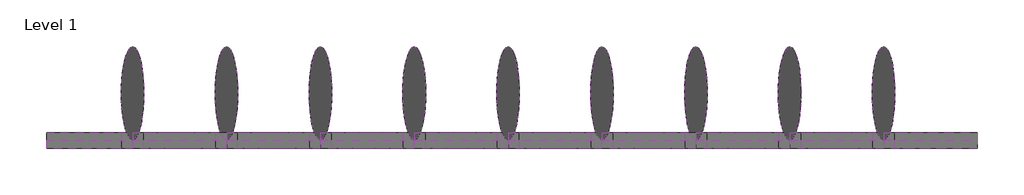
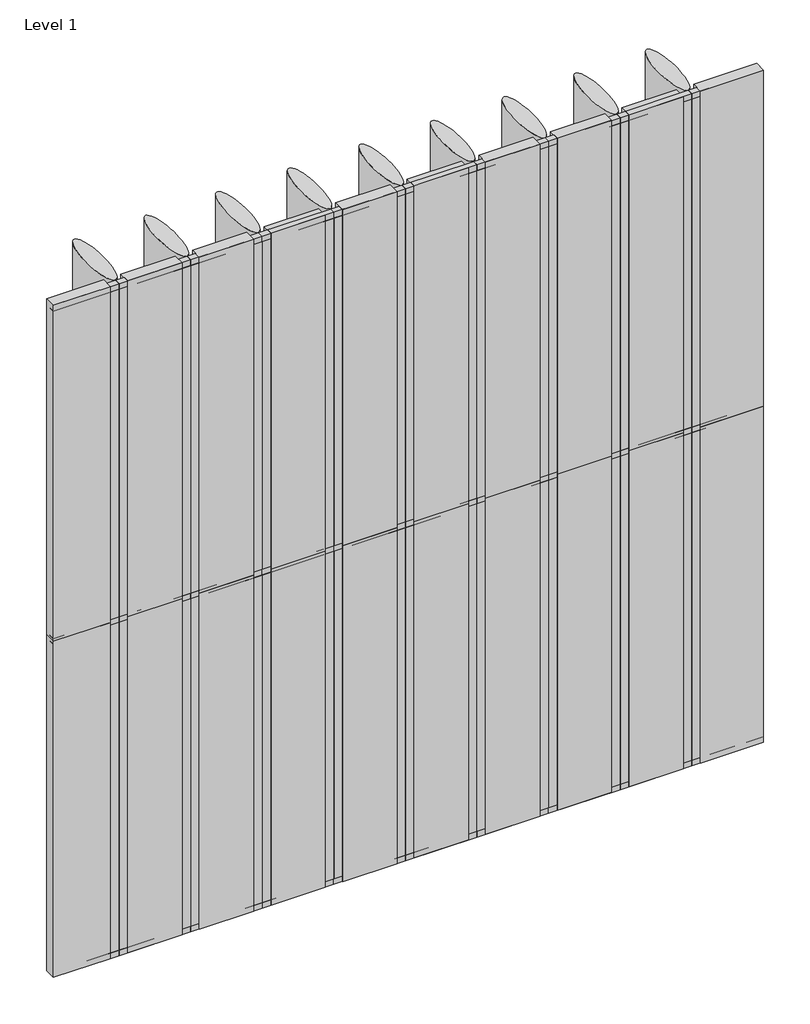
# One storey: 48 members, 40 plates.
"""IFC4 building model written with IfcOpenShell, lengths in millimetres."""

from ifc_helpers import new_model, si_unit, origin, place, context, project, spatial, transform, mapped, element, save
from components import rectangular_mullion_382eacee, rectangular_mullion_d8201ae5, rectangular_mullion_6e5ba28d, rectangular_mullion_1c998518, rectangular_mullion_4d0e3d15, rectangular_mullion_543a06af, rectangular_mullion_fcffcf6d, empty_system_panel_empty_f8120e01, empty_system_panel_empty_408a184a, empty_system_panel_empty_5782cc23, empty_system_panel_empty_b3d00ce9, empty_system_panel_empty_c1b1d027

model = new_model("IFC4")

# Units and contexts
model_context = context("Model", 3, world=origin())
ifc_project = project(units=[si_unit("LENGTHUNIT", "METRE", prefix="MILLI")], contexts=[model_context])

# Site, building, storey
site = spatial("IfcSite", under=ifc_project)
building = spatial("IfcBuilding", under=site)
storey = spatial("IfcBuildingStorey", under=building, Name="Level 1", Elevation=0.0)

# Members
placement = place(None, origin())
rectangular_mullion_shape = rectangular_mullion_382eacee(model_context)
element("IfcMember", 1, ObjectType="Rectangular Mullion : RSen_21_CWM_blade - wing 600 - 0° perforated_gen_duco projects", at=placement, inside=storey, context=model_context, shape_type="MappedRepresentation", body=[
    mapped(rectangular_mullion_shape, transform((5395.0, 3000.0, 0.0), x_axis=(-1.0, 0.0, 0.0), y_axis=(0.0, 1.0, 0.0), z_axis=(0.0, 0.0, -1.0))),
])
element("IfcMember", 2, ObjectType="Rectangular Mullion : RSen_21_CWM_blade - wing 600 - 0° perforated_gen_duco projects", at=placement, inside=storey, context=model_context, shape_type="MappedRepresentation", body=[
    mapped(rectangular_mullion_shape, transform((4790.0, 3000.0, 0.0), x_axis=(-1.0, 0.0, 0.0), y_axis=(0.0, 1.0, 0.0), z_axis=(0.0, 0.0, -1.0))),
])
element("IfcMember", 3, ObjectType="Rectangular Mullion : RSen_21_CWM_blade - wing 600 - 0° perforated_gen_duco projects", at=placement, inside=storey, context=model_context, shape_type="MappedRepresentation", body=[
    mapped(rectangular_mullion_shape, transform((4185.0, 3000.0, 0.0), x_axis=(-1.0, 0.0, 0.0), y_axis=(0.0, 1.0, 0.0), z_axis=(0.0, 0.0, -1.0))),
])
element("IfcMember", 4, ObjectType="Rectangular Mullion : RSen_21_CWM_blade - wing 600 - 0° perforated_gen_duco projects", at=placement, inside=storey, context=model_context, shape_type="MappedRepresentation", body=[
    mapped(rectangular_mullion_shape, transform((3580.0, 3000.0, 0.0), x_axis=(-1.0, 0.0, 0.0), y_axis=(0.0, 1.0, 0.0), z_axis=(0.0, 0.0, -1.0))),
])
element("IfcMember", 5, ObjectType="Rectangular Mullion : RSen_21_CWM_blade - wing 600 - 0° perforated_gen_duco projects", at=placement, inside=storey, context=model_context, shape_type="MappedRepresentation", body=[
    mapped(rectangular_mullion_shape, transform((2975.0, 3000.0, 0.0), x_axis=(-1.0, 0.0, 0.0), y_axis=(0.0, 1.0, 0.0), z_axis=(0.0, 0.0, -1.0))),
])
element("IfcMember", 6, ObjectType="Rectangular Mullion : RSen_21_CWM_blade - wing 600 - 0° perforated_gen_duco projects", at=placement, inside=storey, context=model_context, shape_type="MappedRepresentation", body=[
    mapped(rectangular_mullion_shape, transform((2370.0, 3000.0, 0.0), x_axis=(-1.0, 0.0, 0.0), y_axis=(0.0, 1.0, 0.0), z_axis=(0.0, 0.0, -1.0))),
])
element("IfcMember", 7, ObjectType="Rectangular Mullion : RSen_21_CWM_blade - wing 600 - 0° perforated_gen_duco projects", at=placement, inside=storey, context=model_context, shape_type="MappedRepresentation", body=[
    mapped(rectangular_mullion_shape, transform((1765.0, 3000.0, 0.0), x_axis=(-1.0, 0.0, 0.0), y_axis=(0.0, 1.0, 0.0), z_axis=(0.0, 0.0, -1.0))),
])
element("IfcMember", 8, ObjectType="Rectangular Mullion : RSen_21_CWM_blade - wing 600 - 0° perforated_gen_duco projects", at=placement, inside=storey, context=model_context, shape_type="MappedRepresentation", body=[
    mapped(rectangular_mullion_shape, transform((1160.0, 3000.0, 0.0), x_axis=(-1.0, 0.0, 0.0), y_axis=(0.0, 1.0, 0.0), z_axis=(0.0, 0.0, -1.0))),
])
element("IfcMember", 9, ObjectType="Rectangular Mullion : RSen_21_CWM_blade - wing 600 - 0° perforated_gen_duco projects", at=placement, inside=storey, context=model_context, shape_type="MappedRepresentation", body=[
    mapped(rectangular_mullion_shape, transform((555.0, 3000.0, 0.0), x_axis=(-1.0, 0.0, 0.0), y_axis=(0.0, 1.0, 0.0), z_axis=(0.0, 0.0, -1.0))),
])
element("IfcMember", 10, ObjectType="Rectangular Mullion : RSen_21_CWM_blade - wing 600 - 0° perforated_gen_duco projects", at=placement, inside=storey, context=model_context, shape_type="MappedRepresentation", body=[
    mapped(rectangular_mullion_shape, transform((5395.0, 3000.0, 3000.0), x_axis=(-1.0, 0.0, 0.0), y_axis=(0.0, 1.0, 0.0), z_axis=(0.0, 0.0, -1.0))),
])
element("IfcMember", 11, ObjectType="Rectangular Mullion : RSen_21_CWM_blade - wing 600 - 0° perforated_gen_duco projects", at=placement, inside=storey, context=model_context, shape_type="MappedRepresentation", body=[
    mapped(rectangular_mullion_shape, transform((4790.0, 3000.0, 3000.0), x_axis=(-1.0, 0.0, 0.0), y_axis=(0.0, 1.0, 0.0), z_axis=(0.0, 0.0, -1.0))),
])
element("IfcMember", 12, ObjectType="Rectangular Mullion : RSen_21_CWM_blade - wing 600 - 0° perforated_gen_duco projects", at=placement, inside=storey, context=model_context, shape_type="MappedRepresentation", body=[
    mapped(rectangular_mullion_shape, transform((4185.0, 3000.0, 3000.0), x_axis=(-1.0, 0.0, 0.0), y_axis=(0.0, 1.0, 0.0), z_axis=(0.0, 0.0, -1.0))),
])
element("IfcMember", 13, ObjectType="Rectangular Mullion : RSen_21_CWM_blade - wing 600 - 0° perforated_gen_duco projects", at=placement, inside=storey, context=model_context, shape_type="MappedRepresentation", body=[
    mapped(rectangular_mullion_shape, transform((3580.0, 3000.0, 3000.0), x_axis=(-1.0, 0.0, 0.0), y_axis=(0.0, 1.0, 0.0), z_axis=(0.0, 0.0, -1.0))),
])
element("IfcMember", 14, ObjectType="Rectangular Mullion : RSen_21_CWM_blade - wing 600 - 0° perforated_gen_duco projects", at=placement, inside=storey, context=model_context, shape_type="MappedRepresentation", body=[
    mapped(rectangular_mullion_shape, transform((2975.0, 3000.0, 3000.0), x_axis=(-1.0, 0.0, 0.0), y_axis=(0.0, 1.0, 0.0), z_axis=(0.0, 0.0, -1.0))),
])
element("IfcMember", 15, ObjectType="Rectangular Mullion : RSen_21_CWM_blade - wing 600 - 0° perforated_gen_duco projects", at=placement, inside=storey, context=model_context, shape_type="MappedRepresentation", body=[
    mapped(rectangular_mullion_shape, transform((2370.0, 3000.0, 3000.0), x_axis=(-1.0, 0.0, 0.0), y_axis=(0.0, 1.0, 0.0), z_axis=(0.0, 0.0, -1.0))),
])
element("IfcMember", 16, ObjectType="Rectangular Mullion : RSen_21_CWM_blade - wing 600 - 0° perforated_gen_duco projects", at=placement, inside=storey, context=model_context, shape_type="MappedRepresentation", body=[
    mapped(rectangular_mullion_shape, transform((1765.0, 3000.0, 3000.0), x_axis=(-1.0, 0.0, 0.0), y_axis=(0.0, 1.0, 0.0), z_axis=(0.0, 0.0, -1.0))),
])
element("IfcMember", 17, ObjectType="Rectangular Mullion : RSen_21_CWM_blade - wing 600 - 0° perforated_gen_duco projects", at=placement, inside=storey, context=model_context, shape_type="MappedRepresentation", body=[
    mapped(rectangular_mullion_shape, transform((1160.0, 3000.0, 3000.0), x_axis=(-1.0, 0.0, 0.0), y_axis=(0.0, 1.0, 0.0), z_axis=(0.0, 0.0, -1.0))),
])
element("IfcMember", 18, ObjectType="Rectangular Mullion : RSen_21_CWM_blade - wing 600 - 0° perforated_gen_duco projects", at=placement, inside=storey, context=model_context, shape_type="MappedRepresentation", body=[
    mapped(rectangular_mullion_shape, transform((555.0, 3000.0, 3000.0), x_axis=(-1.0, 0.0, 0.0), y_axis=(0.0, 1.0, 0.0), z_axis=(0.0, 0.0, -1.0))),
])
rectangular_mullion_2_shape = rectangular_mullion_d8201ae5(model_context)
element("IfcMember", 19, ObjectType="Rectangular Mullion : RSen_21_CWM_support profile 50x50 - left_gen_duco projects", at=placement, inside=storey, context=model_context, shape_type="MappedRepresentation", body=[
    mapped(rectangular_mullion_2_shape, transform((0.0, 3000.0, 6000.0), x_axis=(0.0, 0.0, 1.0), y_axis=(0.0, 1.0, 0.0), z_axis=(-1.0, 0.0, 0.0))),
])
rectangular_mullion_3_shape = rectangular_mullion_6e5ba28d(model_context)
element("IfcMember", 20, ObjectType="Rectangular Mullion : RSen_21_CWM_support profile 50x50 - right_gen_duco projects", at=placement, inside=storey, context=model_context, shape_type="MappedRepresentation", body=[
    mapped(rectangular_mullion_3_shape, transform((6000.0, 3000.0, 0.0), x_axis=(0.0, 0.0, -1.0), y_axis=(0.0, 1.0, 0.0), z_axis=(1.0, 0.0, 0.0))),
])
rectangular_mullion_4_shape = rectangular_mullion_1c998518(model_context)
element("IfcMember", 21, ObjectType="Rectangular Mullion : RSen_21_CWM_support profile 50x50 - left_gen_duco projects", at=placement, inside=storey, context=model_context, shape_type="MappedRepresentation", body=[
    mapped(rectangular_mullion_4_shape, transform((5395.0, 3000.0, 6000.0), x_axis=(0.0, 0.0, 1.0), y_axis=(0.0, 1.0, 0.0), z_axis=(-1.0, 0.0, 0.0))),
])
element("IfcMember", 22, ObjectType="Rectangular Mullion : RSen_21_CWM_support profile 50x50 - left_gen_duco projects", at=placement, inside=storey, context=model_context, shape_type="MappedRepresentation", body=[
    mapped(rectangular_mullion_4_shape, transform((4790.0, 3000.0, 6000.0), x_axis=(0.0, 0.0, 1.0), y_axis=(0.0, 1.0, 0.0), z_axis=(-1.0, 0.0, 0.0))),
])
element("IfcMember", 23, ObjectType="Rectangular Mullion : RSen_21_CWM_support profile 50x50 - left_gen_duco projects", at=placement, inside=storey, context=model_context, shape_type="MappedRepresentation", body=[
    mapped(rectangular_mullion_4_shape, transform((4185.0, 3000.0, 6000.0), x_axis=(0.0, 0.0, 1.0), y_axis=(0.0, 1.0, 0.0), z_axis=(-1.0, 0.0, 0.0))),
])
element("IfcMember", 24, ObjectType="Rectangular Mullion : RSen_21_CWM_support profile 50x50 - left_gen_duco projects", at=placement, inside=storey, context=model_context, shape_type="MappedRepresentation", body=[
    mapped(rectangular_mullion_4_shape, transform((3580.0, 3000.0, 6000.0), x_axis=(0.0, 0.0, 1.0), y_axis=(0.0, 1.0, 0.0), z_axis=(-1.0, 0.0, 0.0))),
])
element("IfcMember", 25, ObjectType="Rectangular Mullion : RSen_21_CWM_support profile 50x50 - left_gen_duco projects", at=placement, inside=storey, context=model_context, shape_type="MappedRepresentation", body=[
    mapped(rectangular_mullion_4_shape, transform((2975.0, 3000.0, 6000.0), x_axis=(0.0, 0.0, 1.0), y_axis=(0.0, 1.0, 0.0), z_axis=(-1.0, 0.0, 0.0))),
])
element("IfcMember", 26, ObjectType="Rectangular Mullion : RSen_21_CWM_support profile 50x50 - left_gen_duco projects", at=placement, inside=storey, context=model_context, shape_type="MappedRepresentation", body=[
    mapped(rectangular_mullion_4_shape, transform((2370.0, 3000.0, 6000.0), x_axis=(0.0, 0.0, 1.0), y_axis=(0.0, 1.0, 0.0), z_axis=(-1.0, 0.0, 0.0))),
])
element("IfcMember", 27, ObjectType="Rectangular Mullion : RSen_21_CWM_support profile 50x50 - left_gen_duco projects", at=placement, inside=storey, context=model_context, shape_type="MappedRepresentation", body=[
    mapped(rectangular_mullion_4_shape, transform((1765.0, 3000.0, 6000.0), x_axis=(0.0, 0.0, 1.0), y_axis=(0.0, 1.0, 0.0), z_axis=(-1.0, 0.0, 0.0))),
])
element("IfcMember", 28, ObjectType="Rectangular Mullion : RSen_21_CWM_support profile 50x50 - left_gen_duco projects", at=placement, inside=storey, context=model_context, shape_type="MappedRepresentation", body=[
    mapped(rectangular_mullion_4_shape, transform((1160.0, 3000.0, 6000.0), x_axis=(0.0, 0.0, 1.0), y_axis=(0.0, 1.0, 0.0), z_axis=(-1.0, 0.0, 0.0))),
])
element("IfcMember", 29, ObjectType="Rectangular Mullion : RSen_21_CWM_support profile 50x50 - left_gen_duco projects", at=placement, inside=storey, context=model_context, shape_type="MappedRepresentation", body=[
    mapped(rectangular_mullion_4_shape, transform((555.0, 3000.0, 6000.0), x_axis=(0.0, 0.0, 1.0), y_axis=(0.0, 1.0, 0.0), z_axis=(-1.0, 0.0, 0.0))),
])
element("IfcMember", 30, ObjectType="Rectangular Mullion : RSen_21_CWM_support profile 50x50 - right_gen_duco projects", at=placement, inside=storey, context=model_context, shape_type="MappedRepresentation", body=[
    mapped(rectangular_mullion_3_shape, transform((5395.0, 3000.0, 0.0), x_axis=(0.0, 0.0, -1.0), y_axis=(0.0, 1.0, 0.0), z_axis=(1.0, 0.0, 0.0))),
])
element("IfcMember", 31, ObjectType="Rectangular Mullion : RSen_21_CWM_support profile 50x50 - right_gen_duco projects", at=placement, inside=storey, context=model_context, shape_type="MappedRepresentation", body=[
    mapped(rectangular_mullion_3_shape, transform((4790.0, 3000.0, 0.0), x_axis=(0.0, 0.0, -1.0), y_axis=(0.0, 1.0, 0.0), z_axis=(1.0, 0.0, 0.0))),
])
element("IfcMember", 32, ObjectType="Rectangular Mullion : RSen_21_CWM_support profile 50x50 - right_gen_duco projects", at=placement, inside=storey, context=model_context, shape_type="MappedRepresentation", body=[
    mapped(rectangular_mullion_3_shape, transform((4185.0, 3000.0, 0.0), x_axis=(0.0, 0.0, -1.0), y_axis=(0.0, 1.0, 0.0), z_axis=(1.0, 0.0, 0.0))),
])
element("IfcMember", 33, ObjectType="Rectangular Mullion : RSen_21_CWM_support profile 50x50 - right_gen_duco projects", at=placement, inside=storey, context=model_context, shape_type="MappedRepresentation", body=[
    mapped(rectangular_mullion_3_shape, transform((3580.0, 3000.0, 0.0), x_axis=(0.0, 0.0, -1.0), y_axis=(0.0, 1.0, 0.0), z_axis=(1.0, 0.0, 0.0))),
])
element("IfcMember", 34, ObjectType="Rectangular Mullion : RSen_21_CWM_support profile 50x50 - right_gen_duco projects", at=placement, inside=storey, context=model_context, shape_type="MappedRepresentation", body=[
    mapped(rectangular_mullion_3_shape, transform((2975.0, 3000.0, 0.0), x_axis=(0.0, 0.0, -1.0), y_axis=(0.0, 1.0, 0.0), z_axis=(1.0, 0.0, 0.0))),
])
element("IfcMember", 35, ObjectType="Rectangular Mullion : RSen_21_CWM_support profile 50x50 - right_gen_duco projects", at=placement, inside=storey, context=model_context, shape_type="MappedRepresentation", body=[
    mapped(rectangular_mullion_3_shape, transform((2370.0, 3000.0, 0.0), x_axis=(0.0, 0.0, -1.0), y_axis=(0.0, 1.0, 0.0), z_axis=(1.0, 0.0, 0.0))),
])
element("IfcMember", 36, ObjectType="Rectangular Mullion : RSen_21_CWM_support profile 50x50 - right_gen_duco projects", at=placement, inside=storey, context=model_context, shape_type="MappedRepresentation", body=[
    mapped(rectangular_mullion_3_shape, transform((1765.0, 3000.0, 0.0), x_axis=(0.0, 0.0, -1.0), y_axis=(0.0, 1.0, 0.0), z_axis=(1.0, 0.0, 0.0))),
])
element("IfcMember", 37, ObjectType="Rectangular Mullion : RSen_21_CWM_support profile 50x50 - right_gen_duco projects", at=placement, inside=storey, context=model_context, shape_type="MappedRepresentation", body=[
    mapped(rectangular_mullion_3_shape, transform((1160.0, 3000.0, 0.0), x_axis=(0.0, 0.0, -1.0), y_axis=(0.0, 1.0, 0.0), z_axis=(1.0, 0.0, 0.0))),
])
rectangular_mullion_5_shape = rectangular_mullion_4d0e3d15(model_context)
element("IfcMember", 38, ObjectType="Rectangular Mullion : RSen_21_CWM_support profile 50x50 - right_gen_duco projects", at=placement, inside=storey, context=model_context, shape_type="MappedRepresentation", body=[
    mapped(rectangular_mullion_5_shape, transform((555.0, 3000.0, 0.0), x_axis=(0.0, 0.0, -1.0), y_axis=(0.0, 1.0, 0.0), z_axis=(1.0, 0.0, 0.0))),
])
rectangular_mullion_6_shape = rectangular_mullion_543a06af(model_context)
element("IfcMember", 39, ObjectType="Rectangular Mullion : RSen_21_CWM_support profile 50x50_gen_duco projects", at=placement, inside=storey, context=model_context, shape_type="MappedRepresentation", body=[
    mapped(rectangular_mullion_6_shape, transform((5395.0, 3000.0, 3000.0), x_axis=(0.0, 0.0, 1.0), y_axis=(0.0, 1.0, 0.0), z_axis=(-1.0, 0.0, 0.0))),
])
element("IfcMember", 40, ObjectType="Rectangular Mullion : RSen_21_CWM_support profile 50x50_gen_duco projects", at=placement, inside=storey, context=model_context, shape_type="MappedRepresentation", body=[
    mapped(rectangular_mullion_6_shape, transform((4790.0, 3000.0, 3000.0), x_axis=(0.0, 0.0, 1.0), y_axis=(0.0, 1.0, 0.0), z_axis=(-1.0, 0.0, 0.0))),
])
element("IfcMember", 41, ObjectType="Rectangular Mullion : RSen_21_CWM_support profile 50x50_gen_duco projects", at=placement, inside=storey, context=model_context, shape_type="MappedRepresentation", body=[
    mapped(rectangular_mullion_6_shape, transform((4185.0, 3000.0, 3000.0), x_axis=(0.0, 0.0, 1.0), y_axis=(0.0, 1.0, 0.0), z_axis=(-1.0, 0.0, 0.0))),
])
element("IfcMember", 42, ObjectType="Rectangular Mullion : RSen_21_CWM_support profile 50x50_gen_duco projects", at=placement, inside=storey, context=model_context, shape_type="MappedRepresentation", body=[
    mapped(rectangular_mullion_6_shape, transform((3580.0, 3000.0, 3000.0), x_axis=(0.0, 0.0, 1.0), y_axis=(0.0, 1.0, 0.0), z_axis=(-1.0, 0.0, 0.0))),
])
element("IfcMember", 43, ObjectType="Rectangular Mullion : RSen_21_CWM_support profile 50x50_gen_duco projects", at=placement, inside=storey, context=model_context, shape_type="MappedRepresentation", body=[
    mapped(rectangular_mullion_6_shape, transform((2975.0, 3000.0, 3000.0), x_axis=(0.0, 0.0, 1.0), y_axis=(0.0, 1.0, 0.0), z_axis=(-1.0, 0.0, 0.0))),
])
element("IfcMember", 44, ObjectType="Rectangular Mullion : RSen_21_CWM_support profile 50x50_gen_duco projects", at=placement, inside=storey, context=model_context, shape_type="MappedRepresentation", body=[
    mapped(rectangular_mullion_6_shape, transform((2370.0, 3000.0, 3000.0), x_axis=(0.0, 0.0, 1.0), y_axis=(0.0, 1.0, 0.0), z_axis=(-1.0, 0.0, 0.0))),
])
element("IfcMember", 45, ObjectType="Rectangular Mullion : RSen_21_CWM_support profile 50x50_gen_duco projects", at=placement, inside=storey, context=model_context, shape_type="MappedRepresentation", body=[
    mapped(rectangular_mullion_6_shape, transform((1765.0, 3000.0, 3000.0), x_axis=(0.0, 0.0, 1.0), y_axis=(0.0, 1.0, 0.0), z_axis=(-1.0, 0.0, 0.0))),
])
element("IfcMember", 46, ObjectType="Rectangular Mullion : RSen_21_CWM_support profile 50x50_gen_duco projects", at=placement, inside=storey, context=model_context, shape_type="MappedRepresentation", body=[
    mapped(rectangular_mullion_6_shape, transform((1160.0, 3000.0, 3000.0), x_axis=(0.0, 0.0, 1.0), y_axis=(0.0, 1.0, 0.0), z_axis=(-1.0, 0.0, 0.0))),
])
element("IfcMember", 47, ObjectType="Rectangular Mullion : RSen_21_CWM_support profile 50x50_gen_duco projects", at=placement, inside=storey, context=model_context, shape_type="MappedRepresentation", body=[
    mapped(rectangular_mullion_6_shape, transform((555.0, 3000.0, 3000.0), x_axis=(0.0, 0.0, 1.0), y_axis=(0.0, 1.0, 0.0), z_axis=(-1.0, 0.0, 0.0))),
])
rectangular_mullion_7_shape = rectangular_mullion_fcffcf6d(model_context)
element("IfcMember", 48, ObjectType="Rectangular Mullion : RSen_21_CWM_support profile 50x50_gen_duco projects", at=placement, inside=storey, context=model_context, shape_type="MappedRepresentation", body=[
    mapped(rectangular_mullion_7_shape, transform((0.0, 3000.0, 3000.0), x_axis=(0.0, 0.0, 1.0), y_axis=(0.0, 1.0, 0.0), z_axis=(-1.0, 0.0, 0.0))),
])

# Plates
empty_system_panel_empty_shape = empty_system_panel_empty_f8120e01(model_context)
element("IfcPlate", 49, ObjectType="Empty System Panel : Empty", at=placement, inside=storey, context=model_context, shape_type="MappedRepresentation", body=[
    mapped(empty_system_panel_empty_shape, transform((5734.0, 3000.0, 0.0), x_axis=(-1.0, 0.0, 0.0), y_axis=(0.0, -1.0, 0.0), z_axis=(0.0, 0.0, 1.0))),
])
element("IfcPlate", 50, ObjectType="Empty System Panel : Empty", at=placement, inside=storey, context=model_context, shape_type="MappedRepresentation", body=[
    mapped(empty_system_panel_empty_shape, transform((5734.0, 3000.0, 3000.0), x_axis=(-1.0, 0.0, 0.0), y_axis=(0.0, -1.0, 0.0), z_axis=(0.0, 0.0, 1.0))),
])
empty_system_panel_empty_2_shape = empty_system_panel_empty_408a184a(model_context)
element("IfcPlate", 51, ObjectType="Empty System Panel : Empty", at=placement, inside=storey, context=model_context, shape_type="MappedRepresentation", body=[
    mapped(empty_system_panel_empty_2_shape, transform((5092.5, 3000.0, 0.0), x_axis=(-1.0, 0.0, 0.0), y_axis=(0.0, -1.0, 0.0), z_axis=(0.0, 0.0, 1.0))),
])
element("IfcPlate", 52, ObjectType="Empty System Panel : Empty", at=placement, inside=storey, context=model_context, shape_type="MappedRepresentation", body=[
    mapped(empty_system_panel_empty_2_shape, transform((4487.5, 3000.0, 0.0), x_axis=(-1.0, 0.0, 0.0), y_axis=(0.0, -1.0, 0.0), z_axis=(0.0, 0.0, 1.0))),
])
element("IfcPlate", 53, ObjectType="Empty System Panel : Empty", at=placement, inside=storey, context=model_context, shape_type="MappedRepresentation", body=[
    mapped(empty_system_panel_empty_2_shape, transform((3882.5, 3000.0, 0.0), x_axis=(-1.0, 0.0, 0.0), y_axis=(0.0, -1.0, 0.0), z_axis=(0.0, 0.0, 1.0))),
])
element("IfcPlate", 54, ObjectType="Empty System Panel : Empty", at=placement, inside=storey, context=model_context, shape_type="MappedRepresentation", body=[
    mapped(empty_system_panel_empty_2_shape, transform((3277.5, 3000.0, 0.0), x_axis=(-1.0, 0.0, 0.0), y_axis=(0.0, -1.0, 0.0), z_axis=(0.0, 0.0, 1.0))),
])
element("IfcPlate", 55, ObjectType="Empty System Panel : Empty", at=placement, inside=storey, context=model_context, shape_type="MappedRepresentation", body=[
    mapped(empty_system_panel_empty_2_shape, transform((2672.5, 3000.0, 0.0), x_axis=(-1.0, 0.0, 0.0), y_axis=(0.0, -1.0, 0.0), z_axis=(0.0, 0.0, 1.0))),
])
element("IfcPlate", 56, ObjectType="Empty System Panel : Empty", at=placement, inside=storey, context=model_context, shape_type="MappedRepresentation", body=[
    mapped(empty_system_panel_empty_2_shape, transform((2067.5, 3000.0, 0.0), x_axis=(-1.0, 0.0, 0.0), y_axis=(0.0, -1.0, 0.0), z_axis=(0.0, 0.0, 1.0))),
])
element("IfcPlate", 57, ObjectType="Empty System Panel : Empty", at=placement, inside=storey, context=model_context, shape_type="MappedRepresentation", body=[
    mapped(empty_system_panel_empty_2_shape, transform((1462.5, 3000.0, 0.0), x_axis=(-1.0, 0.0, 0.0), y_axis=(0.0, -1.0, 0.0), z_axis=(0.0, 0.0, 1.0))),
])
element("IfcPlate", 58, ObjectType="Empty System Panel : Empty", at=placement, inside=storey, context=model_context, shape_type="MappedRepresentation", body=[
    mapped(empty_system_panel_empty_2_shape, transform((857.5, 3000.0, 0.0), x_axis=(-1.0, 0.0, 0.0), y_axis=(0.0, -1.0, 0.0), z_axis=(0.0, 0.0, 1.0))),
])
element("IfcPlate", 59, ObjectType="Empty System Panel : Empty", at=placement, inside=storey, context=model_context, shape_type="MappedRepresentation", body=[
    mapped(empty_system_panel_empty_2_shape, transform((5092.5, 3000.0, 3000.0), x_axis=(-1.0, 0.0, 0.0), y_axis=(0.0, -1.0, 0.0), z_axis=(0.0, 0.0, 1.0))),
])
element("IfcPlate", 60, ObjectType="Empty System Panel : Empty", at=placement, inside=storey, context=model_context, shape_type="MappedRepresentation", body=[
    mapped(empty_system_panel_empty_2_shape, transform((4487.5, 3000.0, 3000.0), x_axis=(-1.0, 0.0, 0.0), y_axis=(0.0, -1.0, 0.0), z_axis=(0.0, 0.0, 1.0))),
])
element("IfcPlate", 61, ObjectType="Empty System Panel : Empty", at=placement, inside=storey, context=model_context, shape_type="MappedRepresentation", body=[
    mapped(empty_system_panel_empty_2_shape, transform((3882.5, 3000.0, 3000.0), x_axis=(-1.0, 0.0, 0.0), y_axis=(0.0, -1.0, 0.0), z_axis=(0.0, 0.0, 1.0))),
])
element("IfcPlate", 62, ObjectType="Empty System Panel : Empty", at=placement, inside=storey, context=model_context, shape_type="MappedRepresentation", body=[
    mapped(empty_system_panel_empty_2_shape, transform((3277.5, 3000.0, 3000.0), x_axis=(-1.0, 0.0, 0.0), y_axis=(0.0, -1.0, 0.0), z_axis=(0.0, 0.0, 1.0))),
])
element("IfcPlate", 63, ObjectType="Empty System Panel : Empty", at=placement, inside=storey, context=model_context, shape_type="MappedRepresentation", body=[
    mapped(empty_system_panel_empty_2_shape, transform((2672.5, 3000.0, 3000.0), x_axis=(-1.0, 0.0, 0.0), y_axis=(0.0, -1.0, 0.0), z_axis=(0.0, 0.0, 1.0))),
])
element("IfcPlate", 64, ObjectType="Empty System Panel : Empty", at=placement, inside=storey, context=model_context, shape_type="MappedRepresentation", body=[
    mapped(empty_system_panel_empty_2_shape, transform((2067.5, 3000.0, 3000.0), x_axis=(-1.0, 0.0, 0.0), y_axis=(0.0, -1.0, 0.0), z_axis=(0.0, 0.0, 1.0))),
])
element("IfcPlate", 65, ObjectType="Empty System Panel : Empty", at=placement, inside=storey, context=model_context, shape_type="MappedRepresentation", body=[
    mapped(empty_system_panel_empty_2_shape, transform((1462.5, 3000.0, 3000.0), x_axis=(-1.0, 0.0, 0.0), y_axis=(0.0, -1.0, 0.0), z_axis=(0.0, 0.0, 1.0))),
])
element("IfcPlate", 66, ObjectType="Empty System Panel : Empty", at=placement, inside=storey, context=model_context, shape_type="MappedRepresentation", body=[
    mapped(empty_system_panel_empty_2_shape, transform((857.5, 3000.0, 3000.0), x_axis=(-1.0, 0.0, 0.0), y_axis=(0.0, -1.0, 0.0), z_axis=(0.0, 0.0, 1.0))),
])
empty_system_panel_empty_3_shape = empty_system_panel_empty_5782cc23(model_context)
element("IfcPlate", 67, ObjectType="Empty System Panel : Empty", at=placement, inside=storey, context=model_context, shape_type="MappedRepresentation", body=[
    mapped(empty_system_panel_empty_3_shape, transform((241.0, 3000.0, 0.0), x_axis=(-1.0, 0.0, 0.0), y_axis=(0.0, -1.0, 0.0), z_axis=(0.0, 0.0, 1.0))),
])
element("IfcPlate", 68, ObjectType="Empty System Panel : Empty", at=placement, inside=storey, context=model_context, shape_type="MappedRepresentation", body=[
    mapped(empty_system_panel_empty_3_shape, transform((241.0, 3000.0, 3000.0), x_axis=(-1.0, 0.0, 0.0), y_axis=(0.0, -1.0, 0.0), z_axis=(0.0, 0.0, 1.0))),
])
empty_system_panel_empty_4_shape = empty_system_panel_empty_b3d00ce9(model_context)
element("IfcPlate", 69, ObjectType="Empty System Panel : Empty", at=placement, inside=storey, context=model_context, shape_type="MappedRepresentation", body=[
    mapped(empty_system_panel_empty_4_shape, transform((5697.5, 3000.0, 50.0), x_axis=(-1.0, 0.0, 0.0), y_axis=(0.0, -1.0, 0.0), z_axis=(0.0, 0.0, 1.0))),
])
element("IfcPlate", 70, ObjectType="Empty System Panel : Empty", at=placement, inside=storey, context=model_context, shape_type="MappedRepresentation", body=[
    mapped(empty_system_panel_empty_4_shape, transform((5092.5, 3000.0, 50.0), x_axis=(-1.0, 0.0, 0.0), y_axis=(0.0, -1.0, 0.0), z_axis=(0.0, 0.0, 1.0))),
])
element("IfcPlate", 71, ObjectType="Empty System Panel : Empty", at=placement, inside=storey, context=model_context, shape_type="MappedRepresentation", body=[
    mapped(empty_system_panel_empty_4_shape, transform((4487.5, 3000.0, 50.0), x_axis=(-1.0, 0.0, 0.0), y_axis=(0.0, -1.0, 0.0), z_axis=(0.0, 0.0, 1.0))),
])
element("IfcPlate", 72, ObjectType="Empty System Panel : Empty", at=placement, inside=storey, context=model_context, shape_type="MappedRepresentation", body=[
    mapped(empty_system_panel_empty_4_shape, transform((3882.5, 3000.0, 50.0), x_axis=(-1.0, 0.0, 0.0), y_axis=(0.0, -1.0, 0.0), z_axis=(0.0, 0.0, 1.0))),
])
element("IfcPlate", 73, ObjectType="Empty System Panel : Empty", at=placement, inside=storey, context=model_context, shape_type="MappedRepresentation", body=[
    mapped(empty_system_panel_empty_4_shape, transform((3277.5, 3000.0, 50.0), x_axis=(-1.0, 0.0, 0.0), y_axis=(0.0, -1.0, 0.0), z_axis=(0.0, 0.0, 1.0))),
])
element("IfcPlate", 74, ObjectType="Empty System Panel : Empty", at=placement, inside=storey, context=model_context, shape_type="MappedRepresentation", body=[
    mapped(empty_system_panel_empty_4_shape, transform((2672.5, 3000.0, 50.0), x_axis=(-1.0, 0.0, 0.0), y_axis=(0.0, -1.0, 0.0), z_axis=(0.0, 0.0, 1.0))),
])
element("IfcPlate", 75, ObjectType="Empty System Panel : Empty", at=placement, inside=storey, context=model_context, shape_type="MappedRepresentation", body=[
    mapped(empty_system_panel_empty_4_shape, transform((2067.5, 3000.0, 50.0), x_axis=(-1.0, 0.0, 0.0), y_axis=(0.0, -1.0, 0.0), z_axis=(0.0, 0.0, 1.0))),
])
element("IfcPlate", 76, ObjectType="Empty System Panel : Empty", at=placement, inside=storey, context=model_context, shape_type="MappedRepresentation", body=[
    mapped(empty_system_panel_empty_4_shape, transform((1462.5, 3000.0, 50.0), x_axis=(-1.0, 0.0, 0.0), y_axis=(0.0, -1.0, 0.0), z_axis=(0.0, 0.0, 1.0))),
])
element("IfcPlate", 77, ObjectType="Empty System Panel : Empty", at=placement, inside=storey, context=model_context, shape_type="MappedRepresentation", body=[
    mapped(empty_system_panel_empty_4_shape, transform((857.5, 3000.0, 50.0), x_axis=(-1.0, 0.0, 0.0), y_axis=(0.0, -1.0, 0.0), z_axis=(0.0, 0.0, 1.0))),
])
element("IfcPlate", 78, ObjectType="Empty System Panel : Empty", at=placement, inside=storey, context=model_context, shape_type="MappedRepresentation", body=[
    mapped(empty_system_panel_empty_4_shape, transform((5697.5, 3000.0, 3025.0), x_axis=(-1.0, 0.0, 0.0), y_axis=(0.0, -1.0, 0.0), z_axis=(0.0, 0.0, 1.0))),
])
element("IfcPlate", 79, ObjectType="Empty System Panel : Empty", at=placement, inside=storey, context=model_context, shape_type="MappedRepresentation", body=[
    mapped(empty_system_panel_empty_4_shape, transform((5092.5, 3000.0, 3025.0), x_axis=(-1.0, 0.0, 0.0), y_axis=(0.0, -1.0, 0.0), z_axis=(0.0, 0.0, 1.0))),
])
element("IfcPlate", 80, ObjectType="Empty System Panel : Empty", at=placement, inside=storey, context=model_context, shape_type="MappedRepresentation", body=[
    mapped(empty_system_panel_empty_4_shape, transform((4487.5, 3000.0, 3025.0), x_axis=(-1.0, 0.0, 0.0), y_axis=(0.0, -1.0, 0.0), z_axis=(0.0, 0.0, 1.0))),
])
element("IfcPlate", 81, ObjectType="Empty System Panel : Empty", at=placement, inside=storey, context=model_context, shape_type="MappedRepresentation", body=[
    mapped(empty_system_panel_empty_4_shape, transform((3882.5, 3000.0, 3025.0), x_axis=(-1.0, 0.0, 0.0), y_axis=(0.0, -1.0, 0.0), z_axis=(0.0, 0.0, 1.0))),
])
element("IfcPlate", 82, ObjectType="Empty System Panel : Empty", at=placement, inside=storey, context=model_context, shape_type="MappedRepresentation", body=[
    mapped(empty_system_panel_empty_4_shape, transform((3277.5, 3000.0, 3025.0), x_axis=(-1.0, 0.0, 0.0), y_axis=(0.0, -1.0, 0.0), z_axis=(0.0, 0.0, 1.0))),
])
element("IfcPlate", 83, ObjectType="Empty System Panel : Empty", at=placement, inside=storey, context=model_context, shape_type="MappedRepresentation", body=[
    mapped(empty_system_panel_empty_4_shape, transform((2672.5, 3000.0, 3025.0), x_axis=(-1.0, 0.0, 0.0), y_axis=(0.0, -1.0, 0.0), z_axis=(0.0, 0.0, 1.0))),
])
element("IfcPlate", 84, ObjectType="Empty System Panel : Empty", at=placement, inside=storey, context=model_context, shape_type="MappedRepresentation", body=[
    mapped(empty_system_panel_empty_4_shape, transform((2067.5, 3000.0, 3025.0), x_axis=(-1.0, 0.0, 0.0), y_axis=(0.0, -1.0, 0.0), z_axis=(0.0, 0.0, 1.0))),
])
element("IfcPlate", 85, ObjectType="Empty System Panel : Empty", at=placement, inside=storey, context=model_context, shape_type="MappedRepresentation", body=[
    mapped(empty_system_panel_empty_4_shape, transform((1462.5, 3000.0, 3025.0), x_axis=(-1.0, 0.0, 0.0), y_axis=(0.0, -1.0, 0.0), z_axis=(0.0, 0.0, 1.0))),
])
element("IfcPlate", 86, ObjectType="Empty System Panel : Empty", at=placement, inside=storey, context=model_context, shape_type="MappedRepresentation", body=[
    mapped(empty_system_panel_empty_4_shape, transform((857.5, 3000.0, 3025.0), x_axis=(-1.0, 0.0, 0.0), y_axis=(0.0, -1.0, 0.0), z_axis=(0.0, 0.0, 1.0))),
])
empty_system_panel_empty_5_shape = empty_system_panel_empty_c1b1d027(model_context)
element("IfcPlate", 87, ObjectType="Empty System Panel : Empty", at=placement, inside=storey, context=model_context, shape_type="MappedRepresentation", body=[
    mapped(empty_system_panel_empty_5_shape, transform((277.5, 3000.0, 50.0), x_axis=(-1.0, 0.0, 0.0), y_axis=(0.0, -1.0, 0.0), z_axis=(0.0, 0.0, 1.0))),
])
element("IfcPlate", 88, ObjectType="Empty System Panel : Empty", at=placement, inside=storey, context=model_context, shape_type="MappedRepresentation", body=[
    mapped(empty_system_panel_empty_5_shape, transform((277.5, 3000.0, 3025.0), x_axis=(-1.0, 0.0, 0.0), y_axis=(0.0, -1.0, 0.0), z_axis=(0.0, 0.0, 1.0))),
])

save(model, "model.ifc")
